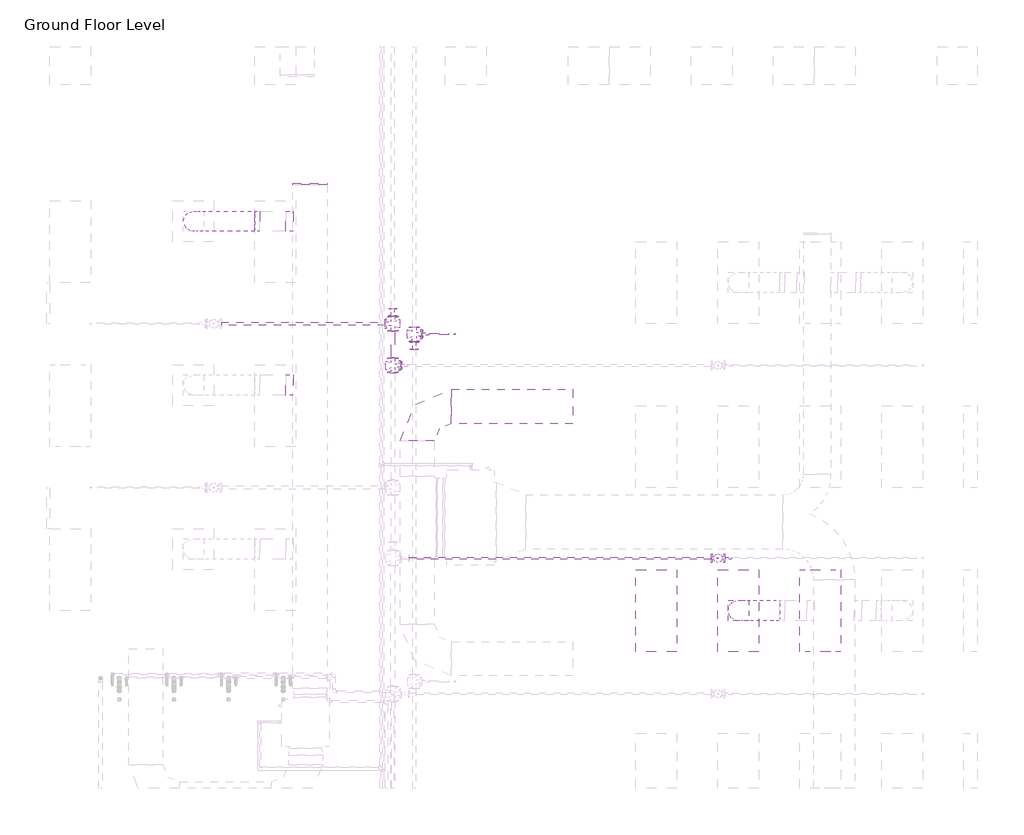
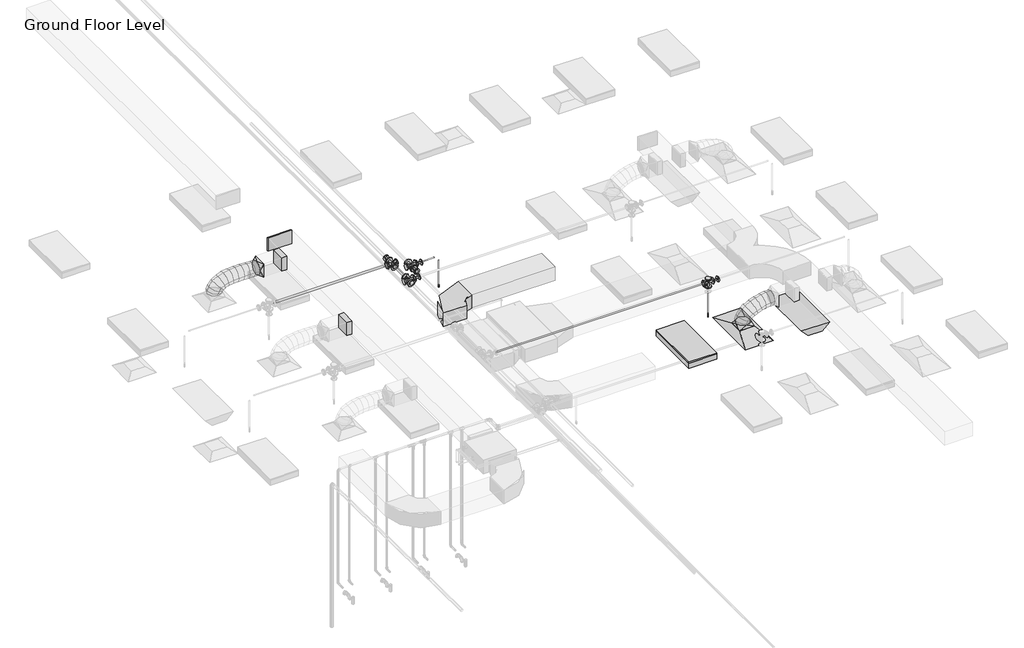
# One storey, part 26 of 66: 9 pipe fittings, 6 duct fittings, 6 pipe segments, 3 duct segments, 2 fire suppression terminals, 2 light fixtures, 1 air terminal.
"""IFC4 building model written with IfcOpenShell, lengths in millimetres."""

from ifc_helpers import new_model, si_unit, point, frame, frame_2d, origin, place, context, project, spatial, polyline, circle_curve, ellipse_curve, trimmed, segment, composite_curve, outline, extrude, transform, mapped, element, save
from ifc_brep_helpers import plane_surface, cylinder_surface, advanced_brep
from components import m_return_diffuser_1200x600_1200_x_600_face_300_x_300_d1983ef6, m_rectangular_elbow_radius_1_w_abe20169, m_rectangular_endcap_standard_72d4d00d, m_rectangular_takeoff_standard_cb0ccb98, m_rectangular_to_round_transition_angle_45_degree_641efff0, m_sprinkler_dry_pendent_hosted_15_mm_dry_pendent_9bda8e11, m_sprinkler_pendent_15_mm_pendent_06fcbd8e, m_emergency_recessed_lighting_fixture_600x1200_277_5b10b25d, m_troffer_light_parabolic_rectangular1_0600x1200mm_4_lamp_86473d4a, m_reducer_flanged_cs_class_150_standard_ccf252ad, m_reducer_flanged_cs_class_150_standard_83138b42, m_reducer_flanged_cs_class_150_standard_564df86d, m_reducer_flanged_cs_class_150_standard_8338f9e4, m_tee_round_base_flanged_cs_class_150_standard_7e5987a1, m_tee_round_base_flanged_cs_class_150_standard_ab36f383

model = new_model("IFC4")

# Units and contexts
model_context = context("Model", 3, world=origin())
ifc_project = project(units=[si_unit("LENGTHUNIT", "METRE", prefix="MILLI")], contexts=[model_context])

# Site, building, storey
site = spatial("IfcSite", under=ifc_project)
building = spatial("IfcBuilding", under=site)
storey = spatial("IfcBuildingStorey", under=building, Name="Ground Floor Level", Elevation=900.0)

# Air terminal
placement = place(None, origin())
m_return_diffuser_1200x600_1200_x_600_face_300_x_300_shape = m_return_diffuser_1200x600_1200_x_600_face_300_x_300_d1983ef6(model_context)
element("IfcAirTerminal", 1, ObjectType="M_Supply Diffuser 1200x600 : 1200 x 600 Face 300 x 300 Connection", at=placement, inside=storey, context=model_context, shape_type="MappedRepresentation", body=[
    mapped(m_return_diffuser_1200x600_1200_x_600_face_300_x_300_shape, transform((10743.0482736, -22864.7846466, 3650.0), x_axis=(0.0, 1.0, 0.0), y_axis=(-1.0, 0.0, 0.0), z_axis=(0.0, 0.0, 1.0))),
])

# Duct fittings
m_rectangular_elbow_radius_1_w_shape = m_rectangular_elbow_radius_1_w_abe20169(model_context)
element("IfcDuctFitting", 2, ObjectType="M_Rectangular Elbow - Radius : 1 W", at=placement, inside=storey, context=model_context, shape_type="MappedRepresentation", body=[
    mapped(m_rectangular_elbow_radius_1_w_shape, transform((6040.9897768, -19877.6206315, 4082.4543707), x_axis=(-1.0, 0.0, 0.0), y_axis=(0.0, -1.0, 0.0), z_axis=(0.0, 0.0, 1.0))),
])
m_rectangular_endcap_standard_shape = m_rectangular_endcap_standard_72d4d00d(model_context)
element("IfcDuctFitting", 3, ObjectType="M_Rectangular Endcap : Standard", at=placement, inside=storey, context=model_context, shape_type="MappedRepresentation", body=[
    mapped(m_rectangular_endcap_standard_shape, transform((4469.1581832, -16631.8627051, 4057.1429453), x_axis=(0.0, 0.999999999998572, -1.6899837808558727e-06), y_axis=(-1.0, 0.0, 0.0), z_axis=(0.0, 1.6899837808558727e-06, 0.999999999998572))),
])
m_rectangular_takeoff_standard_shape = m_rectangular_takeoff_standard_cb0ccb98(model_context)
element("IfcDuctFitting", 4, ObjectType="M_Rectangular Takeoff : Standard", at=placement, inside=storey, context=model_context, shape_type="MappedRepresentation", body=[
    mapped(m_rectangular_takeoff_standard_shape, transform((4219.1581832, -19564.7846466, 4057.1479019), x_axis=(-1.0, 0.0, 0.0), y_axis=(0.0, 1.0, 0.0), z_axis=(0.0, 0.0, -1.0))),
])
element("IfcDuctFitting", 5, ObjectType="M_Rectangular Takeoff : Standard", at=placement, inside=storey, context=model_context, shape_type="MappedRepresentation", body=[
    mapped(m_rectangular_takeoff_standard_shape, transform((4219.1581832, -17164.7846466, 4057.143846), x_axis=(-1.0, 0.0, 0.0), y_axis=(0.0, 1.0, 0.0), z_axis=(0.0, 0.0, -1.0))),
])
m_rectangular_to_round_transition_angle_45_degree_shape = m_rectangular_to_round_transition_angle_45_degree_641efff0(model_context)
element("IfcDuctFitting", 6, ObjectType="M_Rectangular to Round Transition - Angle : 45 Degree", at=placement, inside=storey, context=model_context, shape_type="MappedRepresentation", body=[
    mapped(m_rectangular_to_round_transition_angle_45_degree_shape, transform((10743.0482736, -22864.7846466, 3751.6), x_axis=(0.0, 0.0, 1.0), y_axis=(-1.0, 0.0, 0.0), z_axis=(0.0, -1.0, 0.0))),
])
element("IfcDuctFitting", 7, ObjectType="M_Rectangular to Round Transition - Angle : 45 Degree", at=placement, inside=storey, context=model_context, shape_type="MappedRepresentation", body=[
    mapped(m_rectangular_to_round_transition_angle_45_degree_shape, transform((3732.9593248, -17164.7846466, 4057.143846), x_axis=(-1.0, 0.0, 0.0), y_axis=(0.0, -1.0, 0.0), z_axis=(0.0, 0.0, 1.0))),
])

# Duct segments
element("IfcDuctSegment", 8, ObjectType="Flex - Round", at=placement, inside=storey, context=model_context, shape_type="AdvancedBrep", body=[
    advanced_brep(
    [(10893.0482736, -22864.7846466, 3826.6), (10743.0482736, -23014.7846466, 3826.6), (10593.0482736, -22864.7846466, 3826.6), (10743.0482736, -22714.7846466, 3826.6), (10893.0482736, -22864.7846466, 3832.4838104), (10743.0482736, -23014.7846466, 3857.3049615), (10593.0482736, -22864.7846466, 3882.1261126), (10743.0482736, -22714.7846466, 3857.3049615), (10895.1777586, -22864.7846466, 3838.7421096), (10759.7096782, -23014.7846466, 3906.2708192), (10624.2415979, -22864.7846466, 3973.7995287), (10759.7096782, -22714.7846466, 3906.2708192), (10917.1997864, -22864.7846466, 3871.1472855), (10805.5876959, -23014.7846466, 3973.7798261), (10693.9756053, -22864.7846466, 4076.4123668), (10805.5876959, -22714.7846466, 3973.7798261), (10957.142511, -22864.7846466, 3903.4915826), (10874.5230324, -23014.7846466, 4029.6013814), (10791.9035539, -22864.7846466, 4155.7111802), (10874.5230324, -22714.7846466, 4029.6013814), (11020.0646936, -22864.7846466, 3936.1928758), (10960.3563938, -23014.7846466, 4074.2098454), (10900.6480941, -22864.7846466, 4212.226815), (10960.3563938, -22714.7846466, 4074.2098454), (11098.9170855, -22864.7846466, 3963.8479616), (11056.9284859, -23014.7846466, 4108.0795788), (11014.9398863, -22864.7846466, 4252.311196), (11056.9284859, -22714.7846466, 4108.0795788), (11185.4890682, -22864.7846466, 3984.0509494), (11158.0800145, -23014.7846466, 4131.684942), (11130.6709609, -22864.7846466, 4279.3189347), (11158.0800145, -22714.7846466, 4131.684942), (11271.9732516, -22864.7846466, 3996.0504424), (11257.6516856, -23014.7846466, 4145.5002956), (11243.3301196, -22864.7846466, 4294.9501488), (11257.6516856, -22714.7846466, 4145.5002956), (11346.1345531, -22864.7846466, 4000.0), (11342.1431577, -23014.7846466, 4150.0), (11338.1517622, -22864.7846466, 4300.0), (11342.1431577, -22714.7846466, 4150.0), (11349.4842049, -22864.7846466, 4000.0), (11349.4842049, -22714.7846466, 4150.0), (11349.4842049, -22864.7846466, 4300.0), (11349.4842049, -23014.7846466, 4150.0)],
    [
        (0, 1, circle_curve(frame((10743.0482736, -22864.7846466, 3826.6), z_axis=(0.0, 0.0, -1.0), x_axis=(1.0, 0.0, 0.0)), 150.0)),
        (1, 2, circle_curve(frame((10743.0482736, -22864.7846466, 3826.6), z_axis=(0.0, 0.0, -1.0), x_axis=(1.0, 0.0, 0.0)), 150.0)),
        (2, 3, circle_curve(frame((10743.0482736, -22864.7846466, 3826.6), z_axis=(0.0, 0.0, -1.0), x_axis=(1.0, 0.0, 0.0)), 150.0)),
        (3, 0, circle_curve(frame((10743.0482736, -22864.7846466, 3826.6), z_axis=(0.0, 0.0, -1.0), x_axis=(1.0, 0.0, 0.0)), 150.0)),
        (0, 4),
        (4, 5, ellipse_curve(frame((10743.0482736, -22864.7846466, 3857.3049615), z_axis=(-0.1632543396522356, 0.0, -0.9865840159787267), x_axis=(0.9865840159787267, 0.0, -0.16325433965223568)), 152.039763, 150.0)),
        (5, 1),
        (5, 6, ellipse_curve(frame((10743.0482736, -22864.7846466, 3857.3049615), z_axis=(-0.1632543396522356, 0.0, -0.9865840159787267), x_axis=(0.9865840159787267, 0.0, -0.16325433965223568)), 152.039763, 150.0)),
        (6, 2),
        (6, 7, ellipse_curve(frame((10743.0482736, -22864.7846466, 3857.3049615), z_axis=(-0.1632543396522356, 0.0, -0.9865840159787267), x_axis=(0.9865840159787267, 0.0, -0.16325433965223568)), 152.039763, 150.0)),
        (7, 3),
        (7, 4, ellipse_curve(frame((10743.0482736, -22864.7846466, 3857.3049615), z_axis=(-0.1632543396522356, 0.0, -0.9865840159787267), x_axis=(0.9865840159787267, 0.0, -0.16325433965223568)), 152.039763, 150.0)),
        (4, 8),
        (8, 9, ellipse_curve(frame((10759.7096782, -22864.7846466, 3906.2708192), z_axis=(-0.4461280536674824, 0.0, -0.8949691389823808), x_axis=(0.8949691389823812, 0.0, -0.44612805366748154)), 151.366203, 150.0)),
        (9, 5),
        (9, 10, ellipse_curve(frame((10759.7096782, -22864.7846466, 3906.2708192), z_axis=(-0.4461280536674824, 0.0, -0.8949691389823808), x_axis=(0.8949691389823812, 0.0, -0.44612805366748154)), 151.366203, 150.0)),
        (10, 6),
        (10, 11, ellipse_curve(frame((10759.7096782, -22864.7846466, 3906.2708192), z_axis=(-0.4461280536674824, 0.0, -0.8949691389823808), x_axis=(0.8949691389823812, 0.0, -0.44612805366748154)), 151.366203, 150.0)),
        (11, 7),
        (11, 8, ellipse_curve(frame((10759.7096782, -22864.7846466, 3906.2708192), z_axis=(-0.4461280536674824, 0.0, -0.8949691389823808), x_axis=(0.8949691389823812, 0.0, -0.44612805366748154)), 151.366203, 150.0)),
        (8, 12),
        (12, 13, ellipse_curve(frame((10805.5876959, -22864.7846466, 3973.7798261), z_axis=(-0.6768758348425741, 0.0, -0.7360972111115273), x_axis=(0.7360972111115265, 0.0, -0.6768758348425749)), 151.6268352, 150.0)),
        (13, 9),
        (13, 14, ellipse_curve(frame((10805.5876959, -22864.7846466, 3973.7798261), z_axis=(-0.6768758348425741, 0.0, -0.7360972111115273), x_axis=(0.7360972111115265, 0.0, -0.6768758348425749)), 151.6268352, 150.0)),
        (14, 10),
        (14, 15, ellipse_curve(frame((10805.5876959, -22864.7846466, 3973.7798261), z_axis=(-0.6768758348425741, 0.0, -0.7360972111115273), x_axis=(0.7360972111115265, 0.0, -0.6768758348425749)), 151.6268352, 150.0)),
        (15, 11),
        (15, 12, ellipse_curve(frame((10805.5876959, -22864.7846466, 3973.7798261), z_axis=(-0.6768758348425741, 0.0, -0.7360972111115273), x_axis=(0.7360972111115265, 0.0, -0.6768758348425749)), 151.6268352, 150.0)),
        (12, 16),
        (16, 17, ellipse_curve(frame((10874.5230324, -22864.7846466, 4029.6013814), z_axis=(-0.8364738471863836, 0.0, -0.5480068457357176), x_axis=(0.5480068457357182, 0.0, -0.8364738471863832)), 150.7635884, 150.0)),
        (17, 13),
        (17, 18, ellipse_curve(frame((10874.5230324, -22864.7846466, 4029.6013814), z_axis=(-0.8364738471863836, 0.0, -0.5480068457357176), x_axis=(0.5480068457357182, 0.0, -0.8364738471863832)), 150.7635884, 150.0)),
        (18, 14),
        (18, 19, ellipse_curve(frame((10874.5230324, -22864.7846466, 4029.6013814), z_axis=(-0.8364738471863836, 0.0, -0.5480068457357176), x_axis=(0.5480068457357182, 0.0, -0.8364738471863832)), 150.7635884, 150.0)),
        (19, 15),
        (19, 16, ellipse_curve(frame((10874.5230324, -22864.7846466, 4029.6013814), z_axis=(-0.8364738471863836, 0.0, -0.5480068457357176), x_axis=(0.5480068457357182, 0.0, -0.8364738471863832)), 150.7635884, 150.0)),
        (16, 20),
        (20, 21, ellipse_curve(frame((10960.3563938, -22864.7846466, 4074.2098454), z_axis=(-0.9177957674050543, 0.0, -0.3970528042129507), x_axis=(0.3970528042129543, 0.0, -0.9177957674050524)), 150.3787384, 150.0)),
        (21, 17),
        (21, 22, ellipse_curve(frame((10960.3563938, -22864.7846466, 4074.2098454), z_axis=(-0.9177957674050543, 0.0, -0.3970528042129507), x_axis=(0.3970528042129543, 0.0, -0.9177957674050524)), 150.3787384, 150.0)),
        (22, 18),
        (22, 23, ellipse_curve(frame((10960.3563938, -22864.7846466, 4074.2098454), z_axis=(-0.9177957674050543, 0.0, -0.3970528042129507), x_axis=(0.3970528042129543, 0.0, -0.9177957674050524)), 150.3787384, 150.0)),
        (23, 19),
        (23, 20, ellipse_curve(frame((10960.3563938, -22864.7846466, 4074.2098454), z_axis=(-0.9177957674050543, 0.0, -0.3970528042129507), x_axis=(0.3970528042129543, 0.0, -0.9177957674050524)), 150.3787384, 150.0)),
        (20, 24),
        (24, 25, ellipse_curve(frame((11056.9284859, -22864.7846466, 4108.0795788), z_axis=(-0.9601411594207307, 0.0, -0.27951557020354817), x_axis=(0.2795155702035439, 0.0, -0.9601411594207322)), 150.2191795, 150.0)),
        (25, 21),
        (25, 26, ellipse_curve(frame((11056.9284859, -22864.7846466, 4108.0795788), z_axis=(-0.9601411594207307, 0.0, -0.27951557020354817), x_axis=(0.2795155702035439, 0.0, -0.9601411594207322)), 150.2191795, 150.0)),
        (26, 22),
        (26, 27, ellipse_curve(frame((11056.9284859, -22864.7846466, 4108.0795788), z_axis=(-0.9601411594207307, 0.0, -0.27951557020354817), x_axis=(0.2795155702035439, 0.0, -0.9601411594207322)), 150.2191795, 150.0)),
        (27, 23),
        (27, 24, ellipse_curve(frame((11056.9284859, -22864.7846466, 4108.0795788), z_axis=(-0.9601411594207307, 0.0, -0.27951557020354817), x_axis=(0.2795155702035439, 0.0, -0.9601411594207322)), 150.2191795, 150.0)),
        (24, 28),
        (28, 29, ellipse_curve(frame((11158.0800145, -22864.7846466, 4131.684942), z_axis=(-0.9831991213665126, 0.0, -0.1825362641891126), x_axis=(0.18253626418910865, 0.0, -0.9831991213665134)), 150.1567581, 150.0)),
        (29, 25),
        (29, 30, ellipse_curve(frame((11158.0800145, -22864.7846466, 4131.684942), z_axis=(-0.9831991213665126, 0.0, -0.1825362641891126), x_axis=(0.18253626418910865, 0.0, -0.9831991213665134)), 150.1567581, 150.0)),
        (30, 26),
        (30, 31, ellipse_curve(frame((11158.0800145, -22864.7846466, 4131.684942), z_axis=(-0.9831991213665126, 0.0, -0.1825362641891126), x_axis=(0.18253626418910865, 0.0, -0.9831991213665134)), 150.1567581, 150.0)),
        (31, 27),
        (31, 28, ellipse_curve(frame((11158.0800145, -22864.7846466, 4131.684942), z_axis=(-0.9831991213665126, 0.0, -0.1825362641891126), x_axis=(0.18253626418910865, 0.0, -0.9831991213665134)), 150.1567581, 150.0)),
        (28, 32),
        (32, 33, ellipse_curve(frame((11257.6516856, -22864.7846466, 4145.5002956), z_axis=(-0.9954398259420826, 0.0, -0.09539157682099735), x_axis=(0.09539157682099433, 0.0, -0.9954398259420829)), 150.1344926, 150.0)),
        (33, 29),
        (33, 34, ellipse_curve(frame((11257.6516856, -22864.7846466, 4145.5002956), z_axis=(-0.9954398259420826, 0.0, -0.09539157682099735), x_axis=(0.09539157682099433, 0.0, -0.9954398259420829)), 150.1344926, 150.0)),
        (34, 30),
        (34, 35, ellipse_curve(frame((11257.6516856, -22864.7846466, 4145.5002956), z_axis=(-0.9954398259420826, 0.0, -0.09539157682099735), x_axis=(0.09539157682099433, 0.0, -0.9954398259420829)), 150.1344926, 150.0)),
        (35, 31),
        (35, 32, ellipse_curve(frame((11257.6516856, -22864.7846466, 4145.5002956), z_axis=(-0.9954398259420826, 0.0, -0.09539157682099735), x_axis=(0.09539157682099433, 0.0, -0.9954398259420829)), 150.1344926, 150.0)),
        (32, 36),
        (36, 37, ellipse_curve(frame((11342.1431577, -22864.7846466, 4150.0), z_axis=(-0.9996461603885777, 0.0, -0.02659988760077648), x_axis=(0.026599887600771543, 0.0, -0.9996461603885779)), 150.0530947, 150.0)),
        (37, 33),
        (37, 38, ellipse_curve(frame((11342.1431577, -22864.7846466, 4150.0), z_axis=(-0.9996461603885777, 0.0, -0.02659988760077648), x_axis=(0.026599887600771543, 0.0, -0.9996461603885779)), 150.0530947, 150.0)),
        (38, 34),
        (38, 39, ellipse_curve(frame((11342.1431577, -22864.7846466, 4150.0), z_axis=(-0.9996461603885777, 0.0, -0.02659988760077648), x_axis=(0.026599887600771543, 0.0, -0.9996461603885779)), 150.0530947, 150.0)),
        (39, 35),
        (39, 36, ellipse_curve(frame((11342.1431577, -22864.7846466, 4150.0), z_axis=(-0.9996461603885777, 0.0, -0.02659988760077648), x_axis=(0.026599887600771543, 0.0, -0.9996461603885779)), 150.0530947, 150.0)),
        (40, 41, circle_curve(frame((11349.4842049, -22864.7846466, 4150.0), z_axis=(1.0, 0.0, 0.0), x_axis=(0.0, 0.0, -1.0)), 150.0)),
        (41, 42, circle_curve(frame((11349.4842049, -22864.7846466, 4150.0), z_axis=(1.0, 0.0, 0.0), x_axis=(0.0, 0.0, -1.0)), 150.0)),
        (42, 43, circle_curve(frame((11349.4842049, -22864.7846466, 4150.0), z_axis=(1.0, 0.0, 0.0), x_axis=(0.0, 0.0, -1.0)), 150.0)),
        (43, 40, circle_curve(frame((11349.4842049, -22864.7846466, 4150.0), z_axis=(1.0, 0.0, 0.0), x_axis=(0.0, 0.0, -1.0)), 150.0)),
        (36, 40),
        (43, 37),
        (42, 38),
        (41, 39),
    ],
    [
        plane_surface(frame((10743.0482736, -23014.7846466, 3826.6), z_axis=(0.0, 0.0, -1.0), x_axis=(1.0, 0.0, 0.0))),
        cylinder_surface(frame((10743.0482736, -22864.7846466, 3826.6), z_axis=(0.0, 0.0, -1.0), x_axis=(1.0, 0.0, 0.0)), 150.0),
        cylinder_surface(frame((10743.0482736, -22864.7846466, 3857.3049615), z_axis=(-0.32212824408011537, 0.0, -0.946696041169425), x_axis=(0.946696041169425, 0.0, -0.32212824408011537)), 150.0),
        cylinder_surface(frame((10759.7096782, -22864.7846466, 3906.2708192), z_axis=(-0.5620745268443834, 0.0, -0.827086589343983), x_axis=(0.827086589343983, 0.0, -0.5620745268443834)), 150.0),
        cylinder_surface(frame((10805.5876959, -22864.7846466, 3973.7798261), z_axis=(-0.7771524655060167, 0.0, -0.6293123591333), x_axis=(0.6293123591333, 0.0, -0.7771524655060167)), 150.0),
        cylinder_surface(frame((10874.5230324, -22864.7846466, 4029.6013814), z_axis=(-0.8873220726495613, 0.0, -0.4611502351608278), x_axis=(0.4611502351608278, 0.0, -0.8873220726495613)), 150.0),
        cylinder_surface(frame((10960.3563938, -22864.7846466, 4074.2098454), z_axis=(-0.9436464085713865, 0.0, -0.33095536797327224), x_axis=(0.33095536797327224, 0.0, -0.9436464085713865)), 150.0),
        cylinder_surface(frame((11056.9284859, -22864.7846466, 4108.0795788), z_axis=(-0.9738340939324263, 0.0, -0.22726010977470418), x_axis=(0.22726010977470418, 0.0, -0.9738340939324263)), 150.0),
        cylinder_surface(frame((11158.0800145, -22864.7846466, 4131.684942), z_axis=(-0.9905113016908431, 0.0, -0.13743129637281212), x_axis=(0.13743129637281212, 0.0, -0.9905113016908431)), 150.0),
        cylinder_surface(frame((11257.6516856, -22864.7846466, 4145.5002956), z_axis=(-0.9985848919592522, 0.0, -0.05318095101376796), x_axis=(0.05318095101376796, 0.0, -0.9985848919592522)), 150.0),
        plane_surface(frame((11349.4842049, -22864.7846466, 4000.0), z_axis=(1.0, 0.0, 0.0), x_axis=(0.0, 1.0, 0.0))),
        cylinder_surface(frame((11342.1431577, -22864.7846466, 4150.0), z_axis=(-1.0, 0.0, 0.0), x_axis=(0.0, 0.0, -1.0)), 150.0),
    ],
    [
        (0, [[1, 2, 3, 4]]),
        (1, [[-1, 5, 6, 7]]),
        (1, [[-2, -7, 8, 9]]),
        (1, [[-3, -9, 10, 11]]),
        (1, [[-4, -11, 12, -5]]),
        (2, [[-6, 13, 14, 15]]),
        (2, [[-8, -15, 16, 17]]),
        (2, [[-10, -17, 18, 19]]),
        (2, [[-12, -19, 20, -13]]),
        (3, [[-14, 21, 22, 23]]),
        (3, [[-16, -23, 24, 25]]),
        (3, [[-18, -25, 26, 27]]),
        (3, [[-20, -27, 28, -21]]),
        (4, [[-22, 29, 30, 31]]),
        (4, [[-24, -31, 32, 33]]),
        (4, [[-26, -33, 34, 35]]),
        (4, [[-28, -35, 36, -29]]),
        (5, [[-30, 37, 38, 39]]),
        (5, [[-32, -39, 40, 41]]),
        (5, [[-34, -41, 42, 43]]),
        (5, [[-36, -43, 44, -37]]),
        (6, [[-38, 45, 46, 47]]),
        (6, [[-40, -47, 48, 49]]),
        (6, [[-42, -49, 50, 51]]),
        (6, [[-44, -51, 52, -45]]),
        (7, [[-46, 53, 54, 55]]),
        (7, [[-48, -55, 56, 57]]),
        (7, [[-50, -57, 58, 59]]),
        (7, [[-52, -59, 60, -53]]),
        (8, [[-54, 61, 62, 63]]),
        (8, [[-56, -63, 64, 65]]),
        (8, [[-58, -65, 66, 67]]),
        (8, [[-60, -67, 68, -61]]),
        (9, [[-62, 69, 70, 71]]),
        (9, [[-64, -71, 72, 73]]),
        (9, [[-66, -73, 74, 75]]),
        (9, [[-68, -75, 76, -69]]),
        (10, [[77, 78, 79, 80]]),
        (11, [[-70, 81, -80, 82]]),
        (11, [[-72, -82, -79, 83]]),
        (11, [[-74, -83, -78, 84]]),
        (11, [[-76, -84, -77, -81]]),
    ],
),
])
element("IfcDuctSegment", 9, ObjectType="Flex - Round", at=placement, inside=storey, context=model_context, shape_type="AdvancedBrep", body=[
    advanced_brep(
    [(2912.7672395, -17164.7846466, 3826.6), (2762.7672395, -17314.7846466, 3826.6), (2612.7672395, -17164.7846466, 3826.6), (2762.7672395, -17014.7846466, 3826.6), (2912.7672395, -17164.7846466, 3832.8904054), (2762.7672395, -17314.7846466, 3856.84963), (2612.7672395, -17164.7846466, 3880.8088546), (2762.7672395, -17014.7846466, 3856.84963), (2914.0857611, -17164.7846466, 3836.9124951), (2779.5129985, -17314.7846466, 3907.9318018), (2644.940236, -17164.7846466, 3978.9511085), (2779.5129985, -17014.7846466, 3907.9318018), (2928.1333628, -17164.7846466, 3855.2232955), (2826.2863476, -17314.7846466, 3968.9000352), (2724.4393324, -17164.7846466, 4082.5767748), (2826.2863476, -17014.7846466, 3968.9000352), (2960.0749195, -17164.7846466, 3874.5762626), (2897.8913945, -17314.7846466, 4012.2845867), (2835.7078695, -17164.7846466, 4149.9929109), (2897.8913945, -17014.7846466, 4012.2845867), (3023.3474104, -17164.7846466, 3894.3960649), (2989.1322471, -17314.7846466, 4040.8653433), (2954.9170839, -17164.7846466, 4187.3346218), (2989.1322471, -17014.7846466, 4040.8653433), (3111.2188579, -17164.7846466, 3908.1627538), (3094.8130134, -17314.7846466, 4057.4221917), (3078.407169, -17164.7846466, 4206.6816296), (3094.8130134, -17014.7846466, 4057.4221917), (3215.0397402, -17164.7846466, 3914.7690234), (3209.7378012, -17314.7846466, 4064.7350186), (3204.4358622, -17164.7846466, 4214.7010137), (3209.7378012, -17014.7846466, 4064.7350186), (3327.4409955, -17164.7846466, 3915.5708367), (3328.7107184, -17314.7846466, 4065.5837107), (3329.9804412, -17164.7846466, 4215.5965847), (3328.7107184, -17014.7846466, 4065.5837107), (3442.2167216, -17164.7846466, 3912.8086677), (3446.5358728, -17314.7846466, 4062.7481548), (3450.855024, -17164.7846466, 4212.6876419), (3446.5358728, -17014.7846466, 4062.7481548), (3554.063392, -17164.7846466, 3909.0565), (3558.0173723, -17314.7846466, 4059.0082376), (3561.9713526, -17164.7846466, 4208.9599753), (3558.0173723, -17014.7846466, 4059.0082376), (3657.9593248, -17164.7846466, 3907.143846), (3657.9593248, -17014.7846466, 4057.143846), (3657.9593248, -17164.7846466, 4207.143846), (3657.9593248, -17314.7846466, 4057.143846), (3653.7223326, -17164.7846466, 3907.143846), (3655.1615998, -17314.7846466, 4057.143846), (3656.600867, -17164.7846466, 4207.143846), (3655.1615998, -17014.7846466, 4057.143846)],
    [
        (0, 1, circle_curve(frame((2762.7672395, -17164.7846466, 3826.6), z_axis=(0.0, 0.0, -1.0), x_axis=(1.0, 0.0, 0.0)), 150.0)),
        (1, 2, circle_curve(frame((2762.7672395, -17164.7846466, 3826.6), z_axis=(0.0, 0.0, -1.0), x_axis=(1.0, 0.0, 0.0)), 150.0)),
        (2, 3, circle_curve(frame((2762.7672395, -17164.7846466, 3826.6), z_axis=(0.0, 0.0, -1.0), x_axis=(1.0, 0.0, 0.0)), 150.0)),
        (3, 0, circle_curve(frame((2762.7672395, -17164.7846466, 3826.6), z_axis=(0.0, 0.0, -1.0), x_axis=(1.0, 0.0, 0.0)), 150.0)),
        (0, 4),
        (4, 5, ellipse_curve(frame((2762.7672395, -17164.7846466, 3856.84963), z_axis=(-0.1577287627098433, 0.0, -0.9874824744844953), x_axis=(0.9874824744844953, 0.0, -0.15772876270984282)), 151.90143, 150.0)),
        (5, 1),
        (5, 6, ellipse_curve(frame((2762.7672395, -17164.7846466, 3856.84963), z_axis=(-0.1577287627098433, 0.0, -0.9874824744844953), x_axis=(0.9874824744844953, 0.0, -0.15772876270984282)), 151.90143, 150.0)),
        (6, 2),
        (6, 7, ellipse_curve(frame((2762.7672395, -17164.7846466, 3856.84963), z_axis=(-0.1577287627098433, 0.0, -0.9874824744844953), x_axis=(0.9874824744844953, 0.0, -0.15772876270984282)), 151.90143, 150.0)),
        (7, 3),
        (7, 4, ellipse_curve(frame((2762.7672395, -17164.7846466, 3856.84963), z_axis=(-0.1577287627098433, 0.0, -0.9874824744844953), x_axis=(0.9874824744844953, 0.0, -0.15772876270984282)), 151.90143, 150.0)),
        (4, 8),
        (8, 9, ellipse_curve(frame((2779.5129985, -17164.7846466, 3907.9318018), z_axis=(-0.4667318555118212, 0.0, -0.8843988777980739), x_axis=(0.8843988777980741, 0.0, -0.4667318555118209)), 152.162973, 150.0)),
        (9, 5),
        (9, 10, ellipse_curve(frame((2779.5129985, -17164.7846466, 3907.9318018), z_axis=(-0.4667318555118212, 0.0, -0.8843988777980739), x_axis=(0.8843988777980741, 0.0, -0.4667318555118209)), 152.162973, 150.0)),
        (10, 6),
        (10, 11, ellipse_curve(frame((2779.5129985, -17164.7846466, 3907.9318018), z_axis=(-0.4667318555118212, 0.0, -0.8843988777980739), x_axis=(0.8843988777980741, 0.0, -0.4667318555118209)), 152.162973, 150.0)),
        (11, 7),
        (11, 8, ellipse_curve(frame((2779.5129985, -17164.7846466, 3907.9318018), z_axis=(-0.4667318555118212, 0.0, -0.8843988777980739), x_axis=(0.8843988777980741, 0.0, -0.4667318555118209)), 152.162973, 150.0)),
        (8, 12),
        (12, 13, ellipse_curve(frame((2826.2863476, -17164.7846466, 3968.9000352), z_axis=(-0.7447975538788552, 0.0, -0.6672904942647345), x_axis=(0.667290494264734, 0.0, -0.7447975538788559)), 152.6277027, 150.0)),
        (13, 9),
        (13, 14, ellipse_curve(frame((2826.2863476, -17164.7846466, 3968.9000352), z_axis=(-0.7447975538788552, 0.0, -0.6672904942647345), x_axis=(0.667290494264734, 0.0, -0.7447975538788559)), 152.6277027, 150.0)),
        (14, 10),
        (14, 15, ellipse_curve(frame((2826.2863476, -17164.7846466, 3968.9000352), z_axis=(-0.7447975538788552, 0.0, -0.6672904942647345), x_axis=(0.667290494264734, 0.0, -0.7447975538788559)), 152.6277027, 150.0)),
        (15, 11),
        (15, 12, ellipse_curve(frame((2826.2863476, -17164.7846466, 3968.9000352), z_axis=(-0.7447975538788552, 0.0, -0.6672904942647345), x_axis=(0.667290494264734, 0.0, -0.7447975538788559)), 152.6277027, 150.0)),
        (12, 16),
        (16, 17, ellipse_curve(frame((2897.8913945, -17164.7846466, 4012.2845867), z_axis=(-0.9113887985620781, 0.0, -0.41154642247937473), x_axis=(0.41154642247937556, 0.0, -0.9113887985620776)), 151.0972314, 150.0)),
        (17, 13),
        (17, 18, ellipse_curve(frame((2897.8913945, -17164.7846466, 4012.2845867), z_axis=(-0.9113887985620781, 0.0, -0.41154642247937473), x_axis=(0.41154642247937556, 0.0, -0.9113887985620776)), 151.0972314, 150.0)),
        (18, 14),
        (18, 19, ellipse_curve(frame((2897.8913945, -17164.7846466, 4012.2845867), z_axis=(-0.9113887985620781, 0.0, -0.41154642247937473), x_axis=(0.41154642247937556, 0.0, -0.9113887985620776)), 151.0972314, 150.0)),
        (19, 15),
        (19, 16, ellipse_curve(frame((2897.8913945, -17164.7846466, 4012.2845867), z_axis=(-0.9113887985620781, 0.0, -0.41154642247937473), x_axis=(0.41154642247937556, 0.0, -0.9113887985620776)), 151.0972314, 150.0)),
        (16, 20),
        (20, 21, ellipse_curve(frame((2989.1322471, -17164.7846466, 4040.8653433), z_axis=(-0.9737838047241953, 0.0, -0.2274754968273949), x_axis=(0.22747549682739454, 0.0, -0.9737838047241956)), 150.4125225, 150.0)),
        (21, 17),
        (21, 22, ellipse_curve(frame((2989.1322471, -17164.7846466, 4040.8653433), z_axis=(-0.9737838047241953, 0.0, -0.2274754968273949), x_axis=(0.22747549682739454, 0.0, -0.9737838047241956)), 150.4125225, 150.0)),
        (22, 18),
        (22, 23, ellipse_curve(frame((2989.1322471, -17164.7846466, 4040.8653433), z_axis=(-0.9737838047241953, 0.0, -0.2274754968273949), x_axis=(0.22747549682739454, 0.0, -0.9737838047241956)), 150.4125225, 150.0)),
        (23, 19),
        (23, 20, ellipse_curve(frame((2989.1322471, -17164.7846466, 4040.8653433), z_axis=(-0.9737838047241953, 0.0, -0.2274754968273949), x_axis=(0.22747549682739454, 0.0, -0.9737838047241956)), 150.4125225, 150.0)),
        (20, 24),
        (24, 25, ellipse_curve(frame((3094.8130134, -17164.7846466, 4057.4221917), z_axis=(-0.9940135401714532, 0.0, -0.10925695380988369), x_axis=(0.1092569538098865, 0.0, -0.9940135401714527)), 150.1583549, 150.0)),
        (25, 21),
        (25, 26, ellipse_curve(frame((3094.8130134, -17164.7846466, 4057.4221917), z_axis=(-0.9940135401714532, 0.0, -0.10925695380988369), x_axis=(0.1092569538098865, 0.0, -0.9940135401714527)), 150.1583549, 150.0)),
        (26, 22),
        (26, 27, ellipse_curve(frame((3094.8130134, -17164.7846466, 4057.4221917), z_axis=(-0.9940135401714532, 0.0, -0.10925695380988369), x_axis=(0.1092569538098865, 0.0, -0.9940135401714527)), 150.1583549, 150.0)),
        (27, 23),
        (27, 24, ellipse_curve(frame((3094.8130134, -17164.7846466, 4057.4221917), z_axis=(-0.9940135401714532, 0.0, -0.10925695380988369), x_axis=(0.1092569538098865, 0.0, -0.9940135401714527)), 150.1583549, 150.0)),
        (24, 28),
        (28, 29, ellipse_curve(frame((3209.7378012, -17164.7846466, 4064.7350186), z_axis=(-0.999375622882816, 0.0, -0.035332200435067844), x_axis=(0.035332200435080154, 0.0, -0.9993756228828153)), 150.059689, 150.0)),
        (29, 25),
        (29, 30, ellipse_curve(frame((3209.7378012, -17164.7846466, 4064.7350186), z_axis=(-0.999375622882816, 0.0, -0.035332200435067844), x_axis=(0.035332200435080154, 0.0, -0.9993756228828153)), 150.059689, 150.0)),
        (30, 26),
        (30, 31, ellipse_curve(frame((3209.7378012, -17164.7846466, 4064.7350186), z_axis=(-0.999375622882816, 0.0, -0.035332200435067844), x_axis=(0.035332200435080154, 0.0, -0.9993756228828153)), 150.059689, 150.0)),
        (31, 27),
        (31, 28, ellipse_curve(frame((3209.7378012, -17164.7846466, 4064.7350186), z_axis=(-0.999375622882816, 0.0, -0.035332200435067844), x_axis=(0.035332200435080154, 0.0, -0.9993756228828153)), 150.059689, 150.0)),
        (28, 32),
        (32, 33, ellipse_curve(frame((3328.7107184, -17164.7846466, 4065.5837107), z_axis=(-0.9999641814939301, 0.0, 0.008463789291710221), x_axis=(-0.00846378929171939, 0.0, -0.9999641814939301)), 150.0182474, 150.0)),
        (33, 29),
        (33, 34, ellipse_curve(frame((3328.7107184, -17164.7846466, 4065.5837107), z_axis=(-0.9999641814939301, 0.0, 0.008463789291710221), x_axis=(-0.00846378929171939, 0.0, -0.9999641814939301)), 150.0182474, 150.0)),
        (34, 30),
        (34, 35, ellipse_curve(frame((3328.7107184, -17164.7846466, 4065.5837107), z_axis=(-0.9999641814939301, 0.0, 0.008463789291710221), x_axis=(-0.00846378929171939, 0.0, -0.9999641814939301)), 150.0182474, 150.0)),
        (35, 31),
        (35, 32, ellipse_curve(frame((3328.7107184, -17164.7846466, 4065.5837107), z_axis=(-0.9999641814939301, 0.0, 0.008463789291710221), x_axis=(-0.00846378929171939, 0.0, -0.9999641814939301)), 150.0182474, 150.0)),
        (32, 36),
        (36, 37, ellipse_curve(frame((3446.5358728, -17164.7846466, 4062.7481548), z_axis=(-0.9995853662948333, 0.0, 0.02879401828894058), x_axis=(-0.028794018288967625, -3.989114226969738e-12, -0.9995853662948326)), 150.0016828, 150.0)),
        (37, 33),
        (37, 38, ellipse_curve(frame((3446.5358728, -17164.7846466, 4062.7481548), z_axis=(-0.9995853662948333, 0.0, 0.02879401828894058), x_axis=(-0.028794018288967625, -3.989114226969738e-12, -0.9995853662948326)), 150.0016828, 150.0)),
        (38, 34),
        (38, 39, ellipse_curve(frame((3446.5358728, -17164.7846466, 4062.7481548), z_axis=(-0.9995853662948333, 0.0, 0.02879401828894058), x_axis=(-0.028794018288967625, -3.989114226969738e-12, -0.9995853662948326)), 150.0016828, 150.0)),
        (39, 35),
        (39, 36, ellipse_curve(frame((3446.5358728, -17164.7846466, 4062.7481548), z_axis=(-0.9995853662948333, 0.0, 0.02879401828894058), x_axis=(-0.028794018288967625, -3.989114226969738e-12, -0.9995853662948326)), 150.0016828, 150.0)),
        (36, 40),
        (40, 41, ellipse_curve(frame((3558.0173723, -17164.7846466, 4059.0082376), z_axis=(-0.9996525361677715, 0.0, 0.026359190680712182), x_axis=(0.026359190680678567, 1.3534899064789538e-12, 0.9996525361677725)), 150.0038586, 150.0)),
        (41, 37),
        (41, 42, ellipse_curve(frame((3558.0173723, -17164.7846466, 4059.0082376), z_axis=(-0.9996525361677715, 0.0, 0.026359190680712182), x_axis=(0.026359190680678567, 1.3534899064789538e-12, 0.9996525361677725)), 150.0038586, 150.0)),
        (42, 38),
        (42, 43, ellipse_curve(frame((3558.0173723, -17164.7846466, 4059.0082376), z_axis=(-0.9996525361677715, 0.0, 0.026359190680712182), x_axis=(0.026359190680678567, 1.3534899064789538e-12, 0.9996525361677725)), 150.0038586, 150.0)),
        (43, 39),
        (43, 40, ellipse_curve(frame((3558.0173723, -17164.7846466, 4059.0082376), z_axis=(-0.9996525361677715, 0.0, 0.026359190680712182), x_axis=(0.026359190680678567, 1.3534899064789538e-12, 0.9996525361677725)), 150.0038586, 150.0)),
        (44, 45, circle_curve(frame((3657.9593248, -17164.7846466, 4057.143846), z_axis=(1.0, 0.0, 0.0), x_axis=(0.0, 0.0, -1.0)), 150.0)),
        (45, 46, circle_curve(frame((3657.9593248, -17164.7846466, 4057.143846), z_axis=(1.0, 0.0, 0.0), x_axis=(0.0, 0.0, -1.0)), 150.0)),
        (46, 47, circle_curve(frame((3657.9593248, -17164.7846466, 4057.143846), z_axis=(1.0, 0.0, 0.0), x_axis=(0.0, 0.0, -1.0)), 150.0)),
        (47, 44, circle_curve(frame((3657.9593248, -17164.7846466, 4057.143846), z_axis=(1.0, 0.0, 0.0), x_axis=(0.0, 0.0, -1.0)), 150.0)),
        (40, 48),
        (48, 49, ellipse_curve(frame((3655.1615998, -17164.7846466, 4057.143846), z_axis=(-0.999953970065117, 0.0, 0.009594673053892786), x_axis=(0.00959467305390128, 0.0, 0.999953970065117)), 150.0069048, 150.0)),
        (49, 41),
        (49, 50, ellipse_curve(frame((3655.1615998, -17164.7846466, 4057.143846), z_axis=(-0.999953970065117, 0.0, 0.009594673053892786), x_axis=(0.00959467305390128, 0.0, 0.999953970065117)), 150.0069048, 150.0)),
        (50, 42),
        (50, 51, ellipse_curve(frame((3655.1615998, -17164.7846466, 4057.143846), z_axis=(-0.999953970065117, 0.0, 0.009594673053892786), x_axis=(0.00959467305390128, 0.0, 0.999953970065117)), 150.0069048, 150.0)),
        (51, 43),
        (51, 48, ellipse_curve(frame((3655.1615998, -17164.7846466, 4057.143846), z_axis=(-0.999953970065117, 0.0, 0.009594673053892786), x_axis=(0.00959467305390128, 0.0, 0.999953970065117)), 150.0069048, 150.0)),
        (48, 44),
        (47, 49),
        (46, 50),
        (45, 51),
    ],
    [
        plane_surface(frame((2762.7672395, -17314.7846466, 3826.6), z_axis=(0.0, 0.0, -1.0), x_axis=(1.0, 0.0, 0.0))),
        cylinder_surface(frame((2762.7672395, -17164.7846466, 3826.6), z_axis=(0.0, 0.0, -1.0), x_axis=(1.0, 0.0, 0.0)), 150.0),
        cylinder_surface(frame((2762.7672395, -17164.7846466, 3856.84963), z_axis=(-0.3115087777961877, 0.0, -0.9502432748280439), x_axis=(0.9502432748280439, 0.0, -0.3115087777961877)), 150.0),
        cylinder_surface(frame((2779.5129985, -17164.7846466, 3907.9318018), z_axis=(-0.6086858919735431, 0.0, -0.7934112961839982), x_axis=(0.7934112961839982, 0.0, -0.6086858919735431)), 150.0),
        cylinder_surface(frame((2826.2863476, -17164.7846466, 3968.9000352), z_axis=(-0.8552637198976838, 0.0, -0.5181929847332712), x_axis=(0.5181929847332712, 0.0, -0.8552637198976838)), 150.0),
        cylinder_surface(frame((2897.8913945, -17164.7846466, 4012.2845867), z_axis=(-0.9542773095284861, 0.0, -0.2989227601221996), x_axis=(0.2989227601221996, 0.0, -0.9542773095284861)), 150.0),
        cylinder_surface(frame((2989.1322471, -17164.7846466, 4040.8653433), z_axis=(-0.9879488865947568, 0.0, -0.15478048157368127), x_axis=(0.15478048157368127, 0.0, -0.9879488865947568)), 150.0),
        cylinder_surface(frame((3094.8130134, -17164.7846466, 4057.4221917), z_axis=(-0.9979816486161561, 0.0, -0.06350298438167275), x_axis=(0.06350298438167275, 0.0, -0.9979816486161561)), 150.0),
        cylinder_surface(frame((3209.7378012, -17164.7846466, 4064.7350186), z_axis=(-0.9999745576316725, 0.0, -0.007133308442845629), x_axis=(0.007133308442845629, 0.0, -0.9999745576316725)), 150.0),
        cylinder_surface(frame((3328.7107184, -17164.7846466, 4065.5837107), z_axis=(-0.9997105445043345, 0.0, 0.024058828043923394), x_axis=(-0.024058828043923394, 0.0, -0.9997105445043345)), 150.0),
        cylinder_surface(frame((3446.5358728, -17164.7846466, 4062.7481548), z_axis=(-0.9994377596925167, 0.0, 0.03352856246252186), x_axis=(-0.03352856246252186, 0.0, -0.9994377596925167)), 150.0),
        plane_surface(frame((3657.9593248, -17164.7846466, 3907.143846), z_axis=(1.0, 0.0, 0.0), x_axis=(0.0, 1.0, 0.0))),
        cylinder_surface(frame((3558.0173723, -17164.7846466, 4059.0082376), z_axis=(-0.9998158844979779, 0.0, 0.019188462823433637), x_axis=(-0.019188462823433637, 0.0, -0.9998158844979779)), 150.0),
        cylinder_surface(frame((3655.1615998, -17164.7846466, 4057.143846), z_axis=(-1.0, 0.0, 0.0), x_axis=(0.0, 0.0, -1.0)), 150.0),
    ],
    [
        (0, [[1, 2, 3, 4]]),
        (1, [[-1, 5, 6, 7]]),
        (1, [[-2, -7, 8, 9]]),
        (1, [[-3, -9, 10, 11]]),
        (1, [[-4, -11, 12, -5]]),
        (2, [[-6, 13, 14, 15]]),
        (2, [[-8, -15, 16, 17]]),
        (2, [[-10, -17, 18, 19]]),
        (2, [[-12, -19, 20, -13]]),
        (3, [[-14, 21, 22, 23]]),
        (3, [[-16, -23, 24, 25]]),
        (3, [[-18, -25, 26, 27]]),
        (3, [[-20, -27, 28, -21]]),
        (4, [[-22, 29, 30, 31]]),
        (4, [[-24, -31, 32, 33]]),
        (4, [[-26, -33, 34, 35]]),
        (4, [[-28, -35, 36, -29]]),
        (5, [[-30, 37, 38, 39]]),
        (5, [[-32, -39, 40, 41]]),
        (5, [[-34, -41, 42, 43]]),
        (5, [[-36, -43, 44, -37]]),
        (6, [[-38, 45, 46, 47]]),
        (6, [[-40, -47, 48, 49]]),
        (6, [[-42, -49, 50, 51]]),
        (6, [[-44, -51, 52, -45]]),
        (7, [[-46, 53, 54, 55]]),
        (7, [[-48, -55, 56, 57]]),
        (7, [[-50, -57, 58, 59]]),
        (7, [[-52, -59, 60, -53]]),
        (8, [[-54, 61, 62, 63]]),
        (8, [[-56, -63, 64, 65]]),
        (8, [[-58, -65, 66, 67]]),
        (8, [[-60, -67, 68, -61]]),
        (9, [[-62, 69, 70, 71]]),
        (9, [[-64, -71, 72, 73]]),
        (9, [[-66, -73, 74, 75]]),
        (9, [[-68, -75, 76, -69]]),
        (10, [[-70, 77, 78, 79]]),
        (10, [[-72, -79, 80, 81]]),
        (10, [[-74, -81, 82, 83]]),
        (10, [[-76, -83, 84, -77]]),
        (11, [[85, 86, 87, 88]]),
        (12, [[-78, 89, 90, 91]]),
        (12, [[-80, -91, 92, 93]]),
        (12, [[-82, -93, 94, 95]]),
        (12, [[-84, -95, 96, -89]]),
        (13, [[-90, 97, -88, 98]]),
        (13, [[-92, -98, -87, 99]]),
        (13, [[-94, -99, -86, 100]]),
        (13, [[-96, -100, -85, -97]]),
    ],
),
])
element("IfcDuctSegment", 10, ObjectType="Radius Elbows / Taps", at=placement, inside=storey, context=model_context, shape_type="SweptSolid", body=[
    extrude(outline(polyline([(6540.9897768, -20127.6206315), (6540.9897768, -19627.6206315), (8320.9897766, -19627.6206315), (8320.9897766, -20127.6206315), (6540.9897768, -20127.6206315)])), frame((0.0, 0.0, 3932.4543707), z_axis=(0.0, 0.0, 1.0), x_axis=(1.0, 0.0, 0.0)), (0.0, 0.0, 1.0), 300.0),
])

# Fire suppression terminals
m_sprinkler_dry_pendent_hosted_15_mm_dry_pendent_shape = m_sprinkler_dry_pendent_hosted_15_mm_dry_pendent_9bda8e11(model_context)
element("IfcFireSuppressionTerminal", 11, ObjectType="M_Sprinkler - Dry - Pendent - Hosted : 15 mm Dry Pendent", at=placement, inside=storey, context=model_context, shape_type="MappedRepresentation", body=[
    mapped(m_sprinkler_dry_pendent_hosted_15_mm_dry_pendent_shape, transform((10443.0482736, -22098.0287346, 3650.0), x_axis=(1.0, 0.0, 0.0), y_axis=(0.0, -1.0, 0.0), z_axis=(0.0, 0.0, -1.0))),
])
m_sprinkler_pendent_15_mm_pendent_shape = m_sprinkler_pendent_15_mm_pendent_06fcbd8e(model_context)
element("IfcFireSuppressionTerminal", 12, ObjectType="M_Sprinkler - Pendent : 15 mm Pendent", at=placement, inside=storey, context=model_context, shape_type="MappedRepresentation", body=[
    mapped(m_sprinkler_pendent_15_mm_pendent_shape, transform((6592.5481019, -18818.869914, 3650.0), x_axis=(1.0, 0.0, 0.0), y_axis=(0.0, 1.0, 0.0), z_axis=(0.0, 0.0, 1.0))),
])

# Light fixtures
m_emergency_recessed_lighting_fixture_600x1200_277_shape = m_emergency_recessed_lighting_fixture_600x1200_277_5b10b25d(model_context)
element("IfcLightFixture", 13, ObjectType="M_Emergency Recessed Lighting Fixture : 600x1200 - 277", at=placement, inside=storey, context=model_context, shape_type="MappedRepresentation", body=[
    mapped(m_emergency_recessed_lighting_fixture_600x1200_277_shape, transform((11643.0482736, -23464.7846466, 3650.0), x_axis=(0.0, 1.0, 0.0), y_axis=(-1.0, 0.0, 0.0), z_axis=(0.0, 0.0, 1.0))),
])
m_troffer_light_parabolic_rectangular1_0600x1200mm_4_lamp_shape = m_troffer_light_parabolic_rectangular1_0600x1200mm_4_lamp_86473d4a(model_context)
element("IfcLightFixture", 14, ObjectType="M_Troffer Light - Parabolic Rectangular1 : 0600x1200mm(4 Lamp) - 277V 2", at=placement, inside=storey, context=model_context, shape_type="MappedRepresentation", body=[
    mapped(m_troffer_light_parabolic_rectangular1_0600x1200mm_4_lamp_shape, transform((9483.5823415, -22846.081145, 3650.0), x_axis=(0.0, 1.0, 0.0), y_axis=(-1.0, 0.0, 0.0), z_axis=(0.0, 0.0, 1.0))),
])

# Pipe fittings
m_reducer_flanged_cs_class_150_standard_shape = m_reducer_flanged_cs_class_150_standard_ccf252ad(model_context)
element("IfcPipeFitting", 15, ObjectType="M_Reducer - Flanged - CS - Class 150 : Standard", at=placement, inside=storey, context=model_context, shape_type="MappedRepresentation", body=[
    mapped(m_reducer_flanged_cs_class_150_standard_shape, transform((10543.7568674, -22098.0287346, 4347.5), x_axis=(1.0, 0.0, 0.0), y_axis=(0.0, 0.0, 1.0), z_axis=(0.0, -1.0, 0.0))),
])
m_reducer_flanged_cs_class_150_standard_2_shape = m_reducer_flanged_cs_class_150_standard_83138b42(model_context)
element("IfcPipeFitting", 16, ObjectType="M_Reducer - Flanged - CS - Class 150 : Standard", at=placement, inside=storey, context=model_context, shape_type="MappedRepresentation", body=[
    mapped(m_reducer_flanged_cs_class_150_standard_2_shape, transform((6109.3164057, -18818.869914, 4291.2754753), x_axis=(1.0, 0.0, 0.0), y_axis=(0.0, 0.0, -1.0), z_axis=(0.0, 1.0, 0.0))),
])
m_reducer_flanged_cs_class_150_standard_3_shape = m_reducer_flanged_cs_class_150_standard_564df86d(model_context)
element("IfcPipeFitting", 17, ObjectType="M_Reducer - Flanged - CS - Class 150 : Standard", at=placement, inside=storey, context=model_context, shape_type="MappedRepresentation", body=[
    mapped(m_reducer_flanged_cs_class_150_standard_3_shape, transform((5997.057812, -18931.1285077, 4291.0943441), x_axis=(0.0, -1.0, 0.0), y_axis=(1.0, 0.0, 0.0), z_axis=(0.0, 0.0, 1.0))),
])
element("IfcPipeFitting", 18, ObjectType="M_Reducer - Flanged - CS - Class 150 : Standard", at=placement, inside=storey, context=model_context, shape_type="MappedRepresentation", body=[
    mapped(m_reducer_flanged_cs_class_150_standard_3_shape, transform((5684.6174894, -18552.5260529, 4347.5), x_axis=(0.0, 1.0, 0.0), y_axis=(-1.0, 0.0, 0.0), z_axis=(0.0, 0.0, 1.0))),
])
m_reducer_flanged_cs_class_150_standard_4_shape = m_reducer_flanged_cs_class_150_standard_8338f9e4(model_context)
element("IfcPipeFitting", 19, ObjectType="M_Reducer - Flanged - CS - Class 150 : Standard", at=placement, inside=storey, context=model_context, shape_type="MappedRepresentation", body=[
    mapped(m_reducer_flanged_cs_class_150_standard_4_shape, transform((5796.8760832, -19275.8856124, 4347.5), x_axis=(1.0, 0.0, 0.0), y_axis=(0.0, 0.0, 1.0), z_axis=(0.0, -1.0, 0.0))),
])
m_tee_round_base_flanged_cs_class_150_standard_shape = m_tee_round_base_flanged_cs_class_150_standard_7e5987a1(model_context)
element("IfcPipeFitting", 20, ObjectType="M_Tee Round Base - Flanged - CS - Class 150 : Standard", at=placement, inside=storey, context=model_context, shape_type="MappedRepresentation", body=[
    mapped(m_tee_round_base_flanged_cs_class_150_standard_shape, transform((10443.0482736, -22098.0287346, 4347.5), x_axis=(1.0, 0.0, 0.0), y_axis=(0.0, 0.0, 1.0), z_axis=(0.0, -1.0, 0.0))),
])
m_tee_round_base_flanged_cs_class_150_standard_2_shape = m_tee_round_base_flanged_cs_class_150_standard_ab36f383(model_context)
element("IfcPipeFitting", 21, ObjectType="M_Tee Round Base - Flanged - CS - Class 150 : Standard", at=placement, inside=storey, context=model_context, shape_type="MappedRepresentation", body=[
    mapped(m_tee_round_base_flanged_cs_class_150_standard_2_shape, transform((5997.057812, -18818.869914, 4291.0943441), x_axis=(0.0, 1.0, 0.0), y_axis=(-1.0, 0.0, 0.0), z_axis=(0.0, 0.0, 1.0))),
])
element("IfcPipeFitting", 22, ObjectType="M_Tee Round Base - Flanged - CS - Class 150 : Standard", at=placement, inside=storey, context=model_context, shape_type="MappedRepresentation", body=[
    mapped(m_tee_round_base_flanged_cs_class_150_standard_2_shape, transform((5684.6174894, -19275.8856124, 4347.5), x_axis=(0.0, -1.0, 0.0), y_axis=(-1.0, 0.0, 0.0), z_axis=(0.0, 0.0, -1.0))),
])
element("IfcPipeFitting", 23, ObjectType="M_Tee Round Base - Flanged - CS - Class 150 : Standard", at=placement, inside=storey, context=model_context, shape_type="MappedRepresentation", body=[
    mapped(m_tee_round_base_flanged_cs_class_150_standard_2_shape, transform((5684.6174894, -18664.7846466, 4347.5), x_axis=(0.0, -1.0, 0.0), y_axis=(1.0, 0.0, 0.0), z_axis=(0.0, 0.0, 1.0))),
])

# Pipe segments
element("IfcPipeSegment", 24, ObjectType="Steel flanged", at=placement, inside=storey, context=model_context, shape_type="SweptSolid", body=[
    extrude(outline(composite_curve([segment(trimmed(circle_curve(frame_2d((6592.5481019, -18818.869914)), 10.668), [point((6581.8801019, -18818.869914))], [point((6592.5481019, -18808.201914))], False, "CARTESIAN"), True, "CONTINUOUS"), segment(trimmed(circle_curve(frame_2d((6592.5481019, -18818.869914)), 10.668), [point((6592.5481019, -18808.201914))], [point((6603.2161019, -18818.869914))], False, "CARTESIAN"), True, "CONTINUOUS"), segment(trimmed(circle_curve(frame_2d((6592.5481019, -18818.869914)), 10.668), [point((6603.2161019, -18818.869914))], [point((6592.5481019, -18829.537914))], False, "CARTESIAN"), True, "CONTINUOUS"), segment(trimmed(circle_curve(frame_2d((6592.5481019, -18818.869914)), 10.668), [point((6592.5481019, -18829.537914))], [point((6581.8801019, -18818.869914))], False, "CARTESIAN"), True, "CONTINUOUS")], self_intersect=False)), frame((0.0, 0.0, 3650.0), z_axis=(0.0, 0.0, 1.0), x_axis=(1.0, 0.0, 0.0)), (0.0, 0.0, 1.0), 548.2668816),
])
element("IfcPipeSegment", 25, ObjectType="Steel flanged", at=placement, inside=storey, context=model_context, shape_type="SweptSolid", body=[
    extrude(outline(composite_curve([segment(trimmed(circle_curve(frame_2d((-18818.869914, 4291.2754753)), 10.668), [point((-18808.201914, 4291.2754753))], [point((-18818.869914, 4280.6074753))], False, "CARTESIAN"), True, "CONTINUOUS"), segment(trimmed(circle_curve(frame_2d((-18818.869914, 4291.2754753)), 10.668), [point((-18818.869914, 4280.6074753))], [point((-18829.537914, 4291.2754753))], False, "CARTESIAN"), True, "CONTINUOUS"), segment(trimmed(circle_curve(frame_2d((-18818.869914, 4291.2754753)), 10.668), [point((-18829.537914, 4291.2754753))], [point((-18818.869914, 4301.9434753))], False, "CARTESIAN"), True, "CONTINUOUS"), segment(trimmed(circle_curve(frame_2d((-18818.869914, 4291.2754753)), 10.668), [point((-18818.869914, 4301.9434753))], [point((-18808.201914, 4291.2754753))], False, "CARTESIAN"), True, "CONTINUOUS")], self_intersect=False)), frame((6223.3164057, 0.0, 0.0), z_axis=(1.0, 0.0, 0.0), x_axis=(0.0, 1.0, 0.0)), (0.0, 0.0, 1.0), 276.2231025),
])
element("IfcPipeSegment", 26, ObjectType="Steel flanged", at=placement, inside=storey, context=model_context, shape_type="SweptSolid", body=[
    extrude(outline(composite_curve([segment(trimmed(circle_curve(frame_2d((4347.5, 5684.6174894)), 24.13), [point((4347.5, 5708.7474894))], [point((4371.63, 5684.6174894))], False, "CARTESIAN"), True, "CONTINUOUS"), segment(trimmed(circle_curve(frame_2d((4347.5, 5684.6174894)), 24.13), [point((4371.63, 5684.6174894))], [point((4347.5, 5660.4874894))], False, "CARTESIAN"), True, "CONTINUOUS"), segment(trimmed(circle_curve(frame_2d((4347.5, 5684.6174894)), 24.13), [point((4347.5, 5660.4874894))], [point((4323.37, 5684.6174894))], False, "CARTESIAN"), True, "CONTINUOUS"), segment(trimmed(circle_curve(frame_2d((4347.5, 5684.6174894)), 24.13), [point((4323.37, 5684.6174894))], [point((4347.5, 5708.7474894))], False, "CARTESIAN"), True, "CONTINUOUS")], self_intersect=False)), frame((0.0, -19163.6270186, 0.0), z_axis=(0.0, 1.0, 0.0), x_axis=(0.0, 0.0, 1.0)), (0.0, 0.0, 1.0), 386.5837782),
])
element("IfcPipeSegment", 27, ObjectType="Steel flanged", at=placement, inside=storey, context=model_context, shape_type="SweptSolid", body=[
    extrude(outline(composite_curve([segment(trimmed(circle_curve(frame_2d((10443.0482736, -22098.0287346)), 10.668), [point((10432.3802736, -22098.0287346))], [point((10443.0482736, -22087.3607346))], False, "CARTESIAN"), True, "CONTINUOUS"), segment(trimmed(circle_curve(frame_2d((10443.0482736, -22098.0287346)), 10.668), [point((10443.0482736, -22087.3607346))], [point((10453.7162736, -22098.0287346))], False, "CARTESIAN"), True, "CONTINUOUS"), segment(trimmed(circle_curve(frame_2d((10443.0482736, -22098.0287346)), 10.668), [point((10453.7162736, -22098.0287346))], [point((10443.0482736, -22108.6967346))], False, "CARTESIAN"), True, "CONTINUOUS"), segment(trimmed(circle_curve(frame_2d((10443.0482736, -22098.0287346)), 10.668), [point((10443.0482736, -22108.6967346))], [point((10432.3802736, -22098.0287346))], False, "CARTESIAN"), True, "CONTINUOUS")], self_intersect=False)), frame((0.0, 0.0, 3650.0), z_axis=(0.0, 0.0, 1.0), x_axis=(1.0, 0.0, 0.0)), (0.0, 0.0, 1.0), 482.7914062),
])
element("IfcPipeSegment", 28, ObjectType="Steel flanged", at=placement, inside=storey, context=model_context, shape_type="SweptSolid", body=[
    extrude(outline(composite_curve([segment(trimmed(circle_curve(frame_2d((-22098.0287346, 4347.5)), 16.7005), [point((-22081.3282346, 4347.5))], [point((-22098.0287346, 4330.7995))], False, "CARTESIAN"), True, "CONTINUOUS"), segment(trimmed(circle_curve(frame_2d((-22098.0287346, 4347.5)), 16.7005), [point((-22098.0287346, 4330.7995))], [point((-22114.7292346, 4347.5))], False, "CARTESIAN"), True, "CONTINUOUS"), segment(trimmed(circle_curve(frame_2d((-22098.0287346, 4347.5)), 16.7005), [point((-22114.7292346, 4347.5))], [point((-22098.0287346, 4364.2005))], False, "CARTESIAN"), True, "CONTINUOUS"), segment(trimmed(circle_curve(frame_2d((-22098.0287346, 4347.5)), 16.7005), [point((-22098.0287346, 4364.2005))], [point((-22081.3282346, 4347.5))], False, "CARTESIAN"), True, "CONTINUOUS")], self_intersect=False)), frame((5925.6174894, 0.0, 0.0), z_axis=(1.0, 0.0, 0.0), x_axis=(0.0, 1.0, 0.0)), (0.0, 0.0, 1.0), 4416.7221905),
])
element("IfcPipeSegment", 29, ObjectType="Steel flanged", at=placement, inside=storey, context=model_context, shape_type="SweptSolid", body=[
    extrude(outline(composite_curve([segment(trimmed(circle_curve(frame_2d((-18664.7846466, 4347.5)), 24.13), [point((-18688.9146466, 4347.5))], [point((-18664.7846466, 4371.63))], False, "CARTESIAN"), True, "CONTINUOUS"), segment(trimmed(circle_curve(frame_2d((-18664.7846466, 4347.5)), 24.13), [point((-18664.7846466, 4371.63))], [point((-18640.6546466, 4347.5))], False, "CARTESIAN"), True, "CONTINUOUS"), segment(trimmed(circle_curve(frame_2d((-18664.7846466, 4347.5)), 24.13), [point((-18640.6546466, 4347.5))], [point((-18664.7846466, 4323.37))], False, "CARTESIAN"), True, "CONTINUOUS"), segment(trimmed(circle_curve(frame_2d((-18664.7846466, 4347.5)), 24.13), [point((-18664.7846466, 4323.37))], [point((-18688.9146466, 4347.5))], False, "CARTESIAN"), True, "CONTINUOUS")], self_intersect=False)), frame((3175.0258332, 0.0, 0.0), z_axis=(1.0, 0.0, 0.0), x_axis=(0.0, 1.0, 0.0)), (0.0, 0.0, 1.0), 2397.3330624),
])

save(model, "model.ifc")
